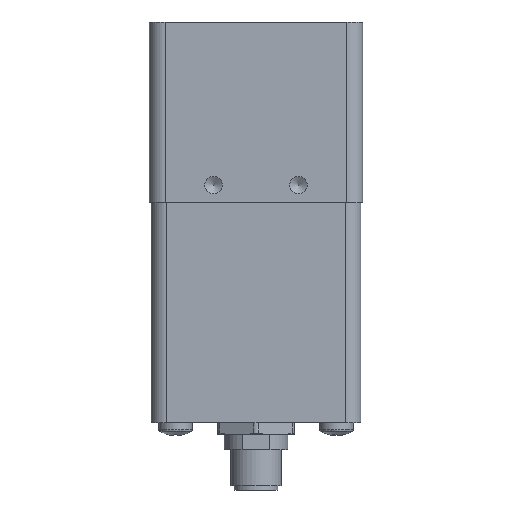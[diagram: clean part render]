
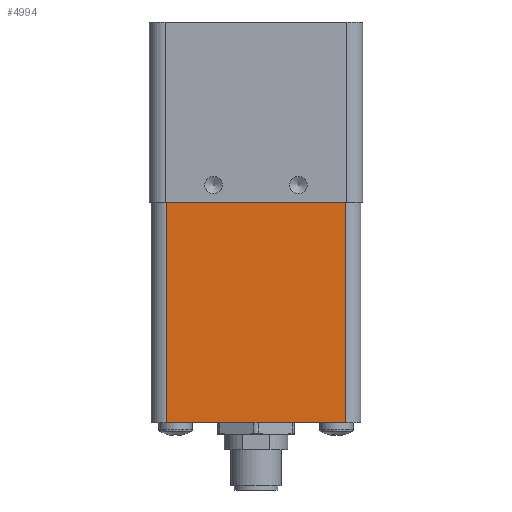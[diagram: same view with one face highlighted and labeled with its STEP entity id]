
A CAD part, front view. The second image highlights one B-rep face of the part: STEP entity #4994.
In plain terms, the highlighted planar face has unit normal (0, -1, 0).
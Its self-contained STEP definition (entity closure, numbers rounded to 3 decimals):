
#4929=CARTESIAN_POINT('',(4.175,0.425,-72.5));
#4930=VERTEX_POINT('',#4929);
#4938=CARTESIAN_POINT('',(4.175,0.425,-20.5));
#4939=VERTEX_POINT('',#4938);
#4940=CARTESIAN_POINT('',(4.175,0.425,-72.5));
#4941=DIRECTION('',(0.0,0.0,1.0));
#4942=VECTOR('',#4941,52.);
#4943=LINE('',#4940,#4942);
#4944=EDGE_CURVE('',#4930,#4939,#4943,.T.);
#4964=CARTESIAN_POINT('',(0.425,0.425,-69.4));
#4965=DIRECTION('',(0.0,-1.0,0.0));
#4966=DIRECTION('',(0.0,0.0,-1.0));
#4967=AXIS2_PLACEMENT_3D('',#4964,#4965,#4966);
#4968=PLANE('',#4967);
#4969=ORIENTED_EDGE('',*,*,#4944,.F.);
#4970=CARTESIAN_POINT('',(46.175,0.425,-72.5));
#4971=VERTEX_POINT('',#4970);
#4972=CARTESIAN_POINT('',(4.175,0.425,-72.5));
#4973=DIRECTION('',(1.0,0.0,0.0));
#4974=VECTOR('',#4973,42.0);
#4975=LINE('',#4972,#4974);
#4976=EDGE_CURVE('',#4930,#4971,#4975,.T.);
#4977=ORIENTED_EDGE('',*,*,#4976,.T.);
#4978=CARTESIAN_POINT('',(46.175,0.425,-20.5));
#4979=VERTEX_POINT('',#4978);
#4980=CARTESIAN_POINT('',(46.175,0.425,-20.5));
#4981=DIRECTION('',(0.0,0.0,-1.0));
#4982=VECTOR('',#4981,52.);
#4983=LINE('',#4980,#4982);
#4984=EDGE_CURVE('',#4979,#4971,#4983,.T.);
#4985=ORIENTED_EDGE('',*,*,#4984,.F.);
#4986=CARTESIAN_POINT('',(4.175,0.425,-20.5));
#4987=DIRECTION('',(1.0,0.0,0.0));
#4988=VECTOR('',#4987,42.0);
#4989=LINE('',#4986,#4988);
#4990=EDGE_CURVE('',#4939,#4979,#4989,.T.);
#4991=ORIENTED_EDGE('',*,*,#4990,.F.);
#4992=EDGE_LOOP('',(#4969,#4977,#4985,#4991));
#4993=FACE_OUTER_BOUND('',#4992,.T.);
#4994=ADVANCED_FACE('',(#4993),#4968,.T.);
